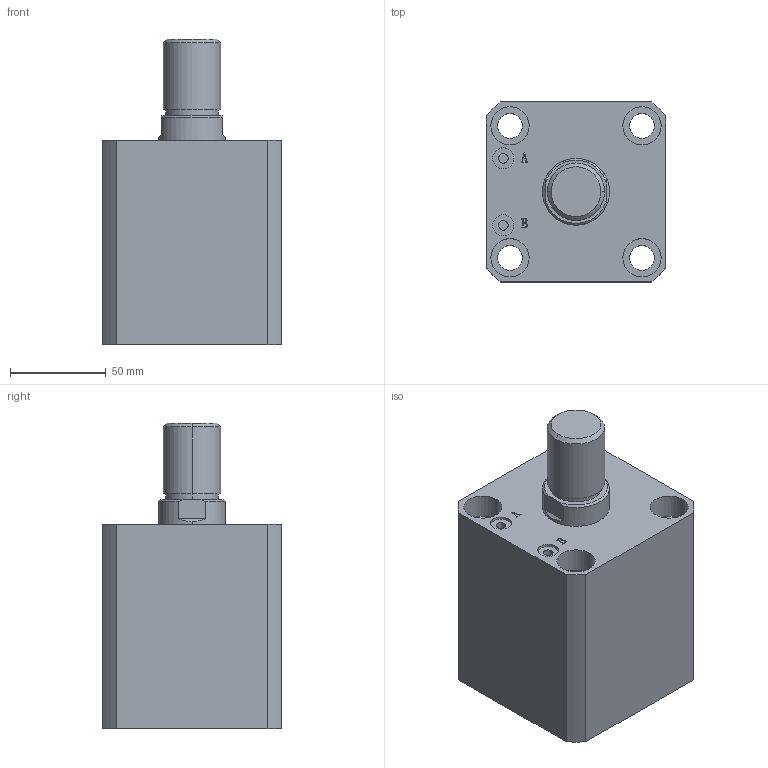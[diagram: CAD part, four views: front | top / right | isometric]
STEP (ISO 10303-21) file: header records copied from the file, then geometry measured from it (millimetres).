
FILE_DESCRIPTION (( 'STEP AP203' ), '1' );
FILE_NAME ('HTB-SDMA63-40W.STEP', '2019-10-08T01:05:11', ( '微软用户' ), ( '微软中国' ), 'SwSTEP 2.0', 'SolidWorks 2012', '' );
FILE_SCHEMA (( 'CONFIG_CONTROL_DESIGN' ));
Length unit declared in the file: millimetre
Products named in the file (3): HTB-SDMA63-40W; HTB-SDMA63-40W活塞杆; HTB-SDMA63-40掛极
Assembly tree (2 placements, depth 2):
  HTB-SDMA63-40W
    HTB-SDMA63-40掛极
    HTB-SDMA63-40W活塞杆
Bounding box: 94 x 94 x 160 mm (x, y, z)
Volume: 811564.2 mm3; surface area: 117547.3 mm2
Topology: 2 solids, 2 shells, 141 faces, 337 edges, 222 vertices
Faces by surface type: plane 67, cylinder 48, bspline 16, torus 6, cone 4
Entity records: 5176 total; most frequent: CARTESIAN_POINT 1593, ORIENTED_EDGE 674, DIRECTION 669, EDGE_CURVE 337, AXIS2_PLACEMENT_3D 242, VERTEX_POINT 222, LINE 185, VECTOR 185
